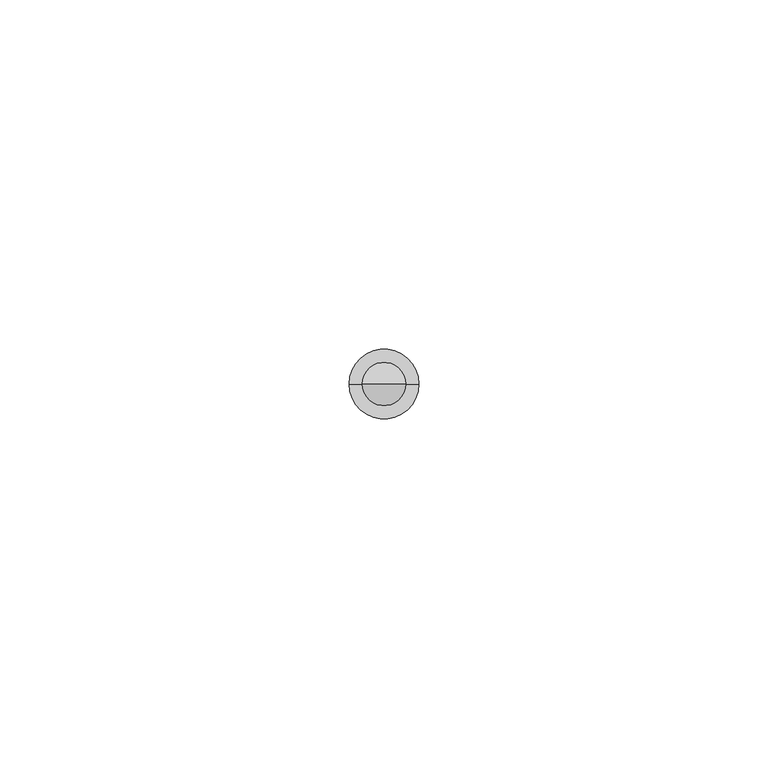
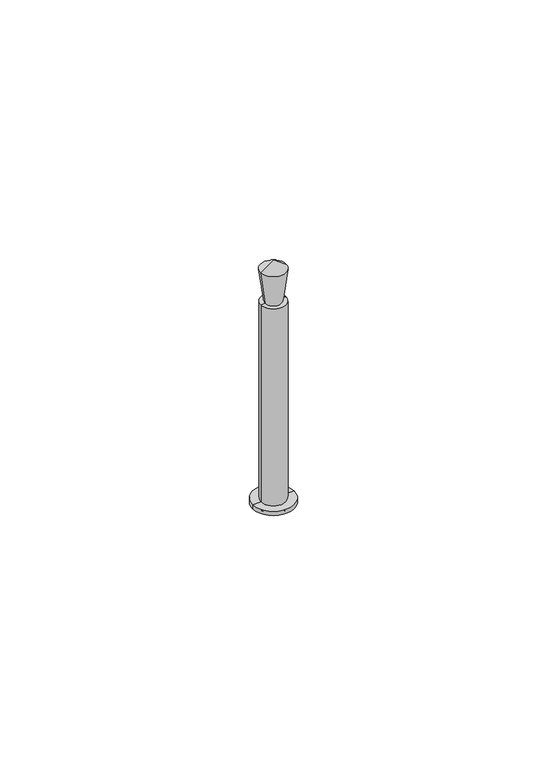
"""IFC4 building model written with IfcOpenShell, lengths in millimetres: proxy geometry, Дюбель в бетон : Дюбель в бетон."""

from ifc_helpers import new_model, si_unit, point, frame, origin, origin_with_axes, place, context, project, spatial, polyline, circle_curve, ellipse_curve, trimmed, source, transform, mapped, element, save
from ifc_brep_helpers import plane_surface, cylinder_surface, revolved_surface, advanced_brep


def generic_models_b2d7e38e(model_context):
    return source(origin(), model_context, "Body", "AdvancedBrep", [
        advanced_brep(
        [(-2.0, 0.0, 50.0), (2.0, 0.0, 50.0), (3.0, 0.0, 50.0), (-3.0, 0.0, 50.0), (-3.087799, 0.0, 58.1812406), (3.087799, 0.0, 58.1812406), (0.0, 0.0, 60.4164519), (-5.0, 0.0, -1.0), (5.0, 0.0, -1.0), (4.1152707, 0.0, -1.0), (-4.1152707, 0.0, -1.0), (-5.0, 0.0, 0.0), (5.0, 0.0, 0.0), (-3.0, 0.0, 0.0), (3.0, 0.0, 0.0), (0.0, 0.0, -2.7046009)],
        [
            (0, 1, circle_curve(frame((0.0, 0.0, 50.0), z_axis=(0.0, 0.0, -1.0), x_axis=(1.0, 0.0, 0.0)), 2.0)),
            (1, 2),
            (2, 3, circle_curve(frame((0.0, 0.0, 50.0), z_axis=(0.0, 0.0, 1.0), x_axis=(1.0, 0.0, 0.0)), 3.0)),
            (3, 0),
            (1, 0, circle_curve(frame((0.0, 0.0, 50.0), z_axis=(0.0, 0.0, -1.0), x_axis=(1.0, 0.0, 0.0)), 2.0)),
            (3, 2, circle_curve(frame((0.0, 0.0, 50.0), z_axis=(0.0, 0.0, 1.0), x_axis=(1.0, 0.0, 0.0)), 3.0)),
            (4, 5, circle_curve(frame((0.0, 0.0, 58.1812406), z_axis=(0.0, 0.0, -1.0), x_axis=(1.0, 0.0, 0.0)), 3.087799)),
            (5, 1),
            (0, 4),
            (5, 4, circle_curve(frame((0.0, 0.0, 58.1812406), z_axis=(0.0, 0.0, -1.0), x_axis=(1.0, 0.0, 0.0)), 3.087799)),
            (6, 5),
            (4, 6),
            (7, 8, circle_curve(frame((0.0, 0.0, -1.0), z_axis=(0.0, 0.0, -1.0), x_axis=(1.0, 0.0, 0.0)), 5.0)),
            (8, 9),
            (9, 10, circle_curve(frame((0.0, 0.0, -1.0), z_axis=(0.0, 0.0, 1.0), x_axis=(1.0, 0.0, 0.0)), 4.1152707)),
            (10, 7),
            (8, 7, circle_curve(frame((0.0, 0.0, -1.0), z_axis=(0.0, 0.0, -1.0), x_axis=(1.0, 0.0, 0.0)), 5.0)),
            (10, 9, circle_curve(frame((0.0, 0.0, -1.0), z_axis=(0.0, 0.0, 1.0), x_axis=(1.0, 0.0, 0.0)), 4.1152707)),
            (11, 12, circle_curve(frame((0.0, 0.0, 0.0), z_axis=(0.0, 0.0, -1.0), x_axis=(1.0, 0.0, 0.0)), 5.0)),
            (12, 8),
            (7, 11),
            (12, 11, circle_curve(frame((0.0, 0.0, 0.0), z_axis=(0.0, 0.0, -1.0), x_axis=(1.0, 0.0, 0.0)), 5.0)),
            (13, 14, circle_curve(frame((0.0, 0.0, 0.0), z_axis=(0.0, 0.0, -1.0), x_axis=(1.0, 0.0, 0.0)), 3.0)),
            (14, 12),
            (11, 13),
            (14, 13, circle_curve(frame((0.0, 0.0, 0.0), z_axis=(0.0, 0.0, -1.0), x_axis=(1.0, 0.0, 0.0)), 3.0)),
            (2, 14),
            (13, 3),
            (9, 15, circle_curve(frame((0.0, 0.0, 3.1152707), z_axis=(0.0, 1.0, 0.0), x_axis=(1.0, 0.0, 0.0)), 5.8198716)),
            (15, 10, circle_curve(frame((0.0, 0.0, 3.1152707), z_axis=(0.0, 1.0, 0.0), x_axis=(-1.0, 0.0, 0.0)), 5.8198716)),
        ],
        [
            plane_surface(frame((0.0, 0.0, 50.0), z_axis=(0.0, 0.0, 1.0), x_axis=(1.0, 0.0, 0.0))),
            revolved_surface(polyline([(2.0, 0.0, 50.0), (3.087799, 0.0, 58.1812406)]), (0.0, 0.0, 1000.0), (0.0, 0.0, 1.0)),
            revolved_surface(polyline([(3.087799, 0.0, 58.1812406), (0.0, 0.0, 60.4164519)]), (0.0, 0.0, 1000.0), (0.0, 0.0, 1.0)),
            plane_surface(frame((0.0, 0.0, -1.0), z_axis=(0.0, 0.0, -1.0), x_axis=(1.0, 0.0, 0.0))),
            cylinder_surface(frame((0.0, 0.0, 1000.0), z_axis=(0.0, 0.0, 1.0), x_axis=(1.0, 0.0, 0.0)), 5.0),
            plane_surface(origin_with_axes()),
            cylinder_surface(frame((0.0, 0.0, 1000.0), z_axis=(0.0, 0.0, 1.0), x_axis=(1.0, 0.0, 0.0)), 3.0),
            revolved_surface(trimmed(ellipse_curve(frame((0.0, 0.0, 3.1152707), z_axis=(0.0, -1.0, 0.0), x_axis=(1.0, 0.0, 0.0)), 5.8198716, 5.8198716), [point((0.0, 0.0, -2.7046009))], [point((4.1152707, 0.0, -1.0))], True, "CARTESIAN"), (0.0, 0.0, 1000.0), (0.0, 0.0, 1.0)),
        ],
        [
            (0, [[1, 2, 3, 4]]),
            (0, [[5, -4, 6, -2]]),
            (1, [[7, 8, -1, 9]]),
            (1, [[10, -9, -5, -8]]),
            (2, [[11, -7, 12]]),
            (2, [[-12, -10, -11]]),
            (3, [[13, 14, 15, 16]]),
            (3, [[17, -16, 18, -14]]),
            (4, [[19, 20, -13, 21]]),
            (4, [[22, -21, -17, -20]]),
            (5, [[23, 24, -19, 25]]),
            (5, [[26, -25, -22, -24]]),
            (6, [[-3, 27, -23, 28]]),
            (6, [[-6, -28, -26, -27]]),
            (7, [[-15, 29, 30]]),
            (7, [[-18, -30, -29]]),
        ],
    ),
    ])


if __name__ == "__main__":
    model = new_model("IFC4")
    model_context = context("Model", 3, world=origin())
    ifc_project = project(units=[si_unit("LENGTHUNIT", "METRE", prefix="MILLI")], contexts=[model_context])
    site = spatial("IfcSite", under=ifc_project)
    building = spatial("IfcBuilding", under=site)
    placement = place(None, origin())
    generic_models_shape = generic_models_b2d7e38e(model_context)
    element("IfcBuildingElementProxy", 1, Name="Дюбель в бетон : Дюбель в бетон", ObjectType="Дюбель в бетон : Дюбель в бетон", at=placement, inside=building, context=model_context, shape_type="MappedRepresentation", body=[
        mapped(generic_models_shape, transform((0.0, 0.0, 0.0), x_axis=(1.0, 0.0, 0.0), y_axis=(0.0, 1.0, 0.0), z_axis=(0.0, 0.0, 1.0))),
    ])
    save(model, "model.ifc")
